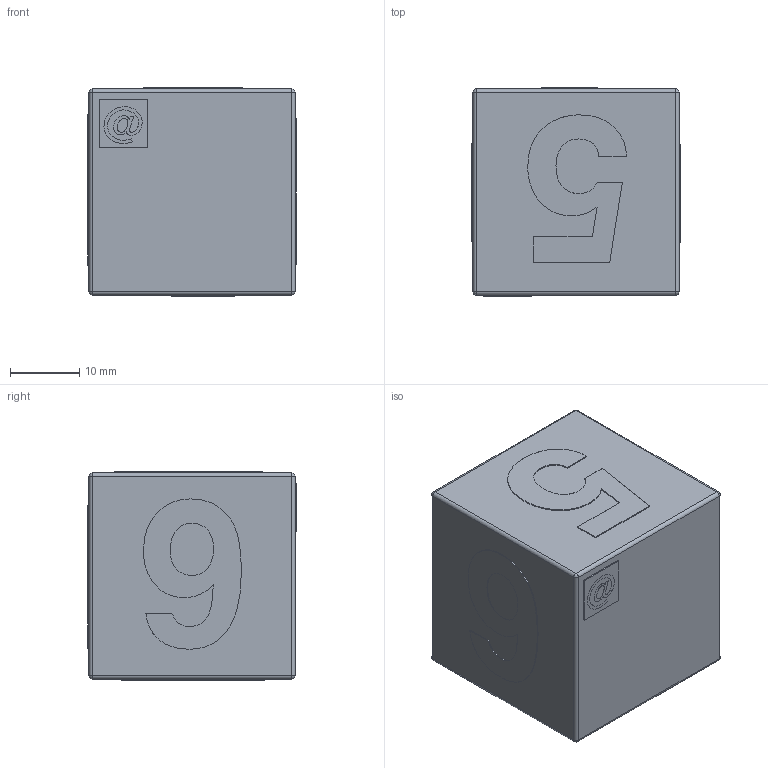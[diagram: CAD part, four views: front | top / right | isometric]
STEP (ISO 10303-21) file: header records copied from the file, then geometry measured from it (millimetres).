
FILE_DESCRIPTION(('Open CASCADE Model'),'2;1');
FILE_NAME('Open CASCADE Shape Model','2025-09-14T20:47:11',('Author'),( 'Open CASCADE'),'Open CASCADE STEP processor 7.8','Open CASCADE 7.8' ,'Unknown');
FILE_SCHEMA(('AUTOMOTIVE_DESIGN { 1 0 10303 214 1 1 1 1 }'));
Length unit declared in the file: millimetre
Products named in the file (18): 9b0a731a-91a3-11f0-88d2-1c1b0deae66b; 9b0a7522-91a3-11f0-88d2-1c1b0deae66b; 9b0a7522-91a3-11f0-88d2-1c1b0deae66b_part; 9b0d1782-91a3-11f0-88d2-1c1b0deae66b; 9b0d1782-91a3-11f0-88d2-1c1b0deae66b_part; 9b0e6ab0-91a3-11f0-88d2-1c1b0deae66b; 9b0e6ab0-91a3-11f0-88d2-1c1b0deae66b_part; 9b103aac-91a3-11f0-88d2-1c1b0deae66b; 9b103aac-91a3-11f0-88d2-1c1b0deae66b_part; 9b11ba44-91a3-11f0-88d2-1c1b0deae66b; 9b11ba44-91a3-11f0-88d2-1c1b0deae66b_part; 9b133702-91a3-11f0-88d2-1c1b0deae66b; 9b133702-91a3-11f0-88d2-1c1b0deae66b_part; 9b2a4d66-91a3-11f0-88d2-1c1b0deae66b; 9b2a4d66-91a3-11f0-88d2-1c1b0deae66b_part; 9b2a4f00-91a3-11f0-88d2-1c1b0deae66b; 9b2a4f00-91a3-11f0-88d2-1c1b0deae66b_part
Assembly tree (17 placements, depth 4):
  9b0a731a-91a3-11f0-88d2-1c1b0deae66b
    9b0a731a-91a3-11f0-88d2-1c1b0deae66b
      9b0a7522-91a3-11f0-88d2-1c1b0deae66b
        9b0a7522-91a3-11f0-88d2-1c1b0deae66b_part
      9b0d1782-91a3-11f0-88d2-1c1b0deae66b
        9b0d1782-91a3-11f0-88d2-1c1b0deae66b_part
      9b0e6ab0-91a3-11f0-88d2-1c1b0deae66b
        9b0e6ab0-91a3-11f0-88d2-1c1b0deae66b_part
      9b103aac-91a3-11f0-88d2-1c1b0deae66b
        9b103aac-91a3-11f0-88d2-1c1b0deae66b_part
      9b11ba44-91a3-11f0-88d2-1c1b0deae66b
        9b11ba44-91a3-11f0-88d2-1c1b0deae66b_part
      9b133702-91a3-11f0-88d2-1c1b0deae66b
        9b133702-91a3-11f0-88d2-1c1b0deae66b_part
      9b2a4d66-91a3-11f0-88d2-1c1b0deae66b
        9b2a4d66-91a3-11f0-88d2-1c1b0deae66b_part
      9b2a4f00-91a3-11f0-88d2-1c1b0deae66b
        9b2a4f00-91a3-11f0-88d2-1c1b0deae66b_part
Bounding box: 30 x 30 x 30 mm (x, y, z)
Volume: 26300.8 mm3; surface area: 6923.3 mm2
Topology: 9 solids, 9 shells, 229 faces, 617 edges, 398 vertices
Faces by surface type: extrusion 136, plane 73, cylinder 12, sphere 8
Entity records: 15502 total; most frequent: CARTESIAN_POINT 3864, DIRECTION 1633, VECTOR 1363, LINE 1227, ORIENTED_EDGE 1218, PCURVE 1218, DEFINITIONAL_REPRESENTATION 1218, B_SPLINE_CURVE_WITH_KNOTS 712
